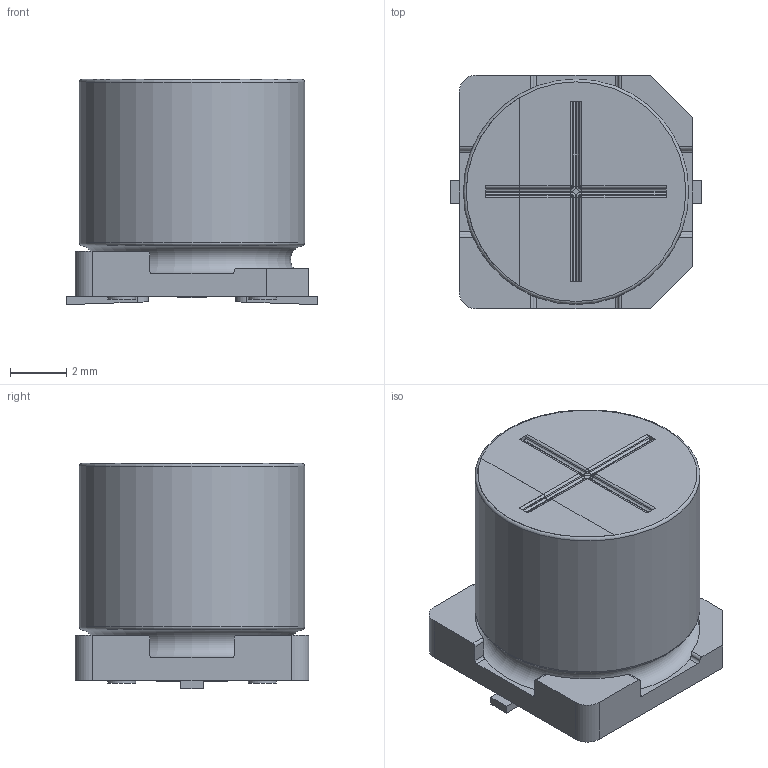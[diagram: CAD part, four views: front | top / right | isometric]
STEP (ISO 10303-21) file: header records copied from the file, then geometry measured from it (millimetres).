
FILE_DESCRIPTION(/* description */ (''),/* implementation_level */ '2;1');
FILE_NAME(/* name */ '8x8_Chip.stp',/* time_stamp */ '2017-09-04T17:44:08+09:00',/* author */ (''),/* organization */ (''),/* preprocessor_version */ 'ST-DEVELOPER v16',/* originating_system */ 'SIEMENS PLM Software NX 11.0',/* authorisation */ '');
FILE_SCHEMA (('AUTOMOTIVE_DESIGN { 1 0 10303 214 3 1 1 1 }'));
Length unit declared in the file: millimetre
Products named in the file (1): 8x8_Chip_0
Bounding box: 8.9 x 8.3 x 8 mm (x, y, z)
Volume: 399 mm3; surface area: 493 mm2
Topology: 5 solids, 5 shells, 132 faces, 330 edges, 210 vertices
Faces by surface type: plane 61, cylinder 60, sphere 4, bspline 4, torus 3
Full cylindrical faces by diameter (mm): 1 x4, 8 x1
Entity records: 4212 total; most frequent: CARTESIAN_POINT 919, DIRECTION 670, ORIENTED_EDGE 634, EDGE_CURVE 317, AXIS2_PLACEMENT_3D 240, VERTEX_POINT 209, LINE 190, VECTOR 190
